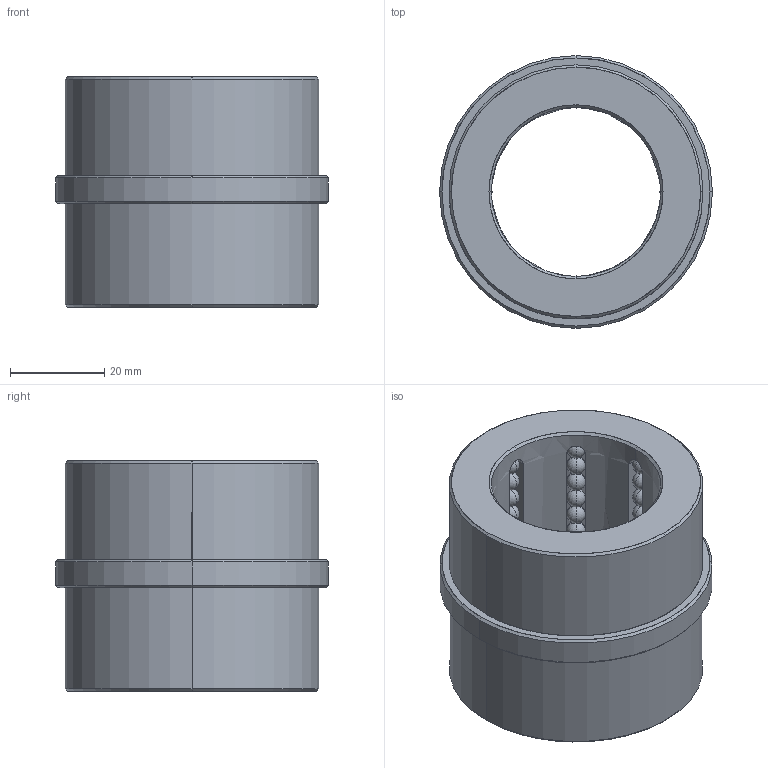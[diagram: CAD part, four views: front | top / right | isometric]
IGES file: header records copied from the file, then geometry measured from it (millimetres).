
Start section: START RECORD GO HERE.
Global section: file name: B8453627.igs; native system: DASSAULT SYSTEMES CATIA V5 R20 - www.3ds.com; preprocessor: CATIA Version 5 Release 20 ; author: Utente; organization: NB04-ASUS; date: 20200419.201411; units: millimetre
Bounding box: 58 x 58 x 49 mm (x, y, z)
Surface area: 23740.8 mm2 (no closed solid volume)
Topology: 0 solids, 0 shells, 396 faces, 1652 edges, 1012 vertices
Faces by surface type: revolution 368, plane 28
